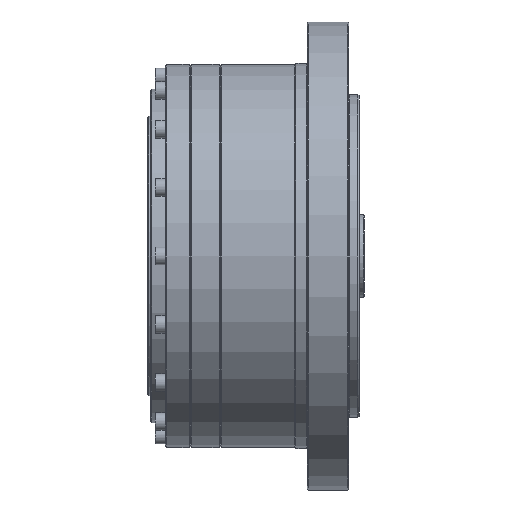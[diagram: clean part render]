
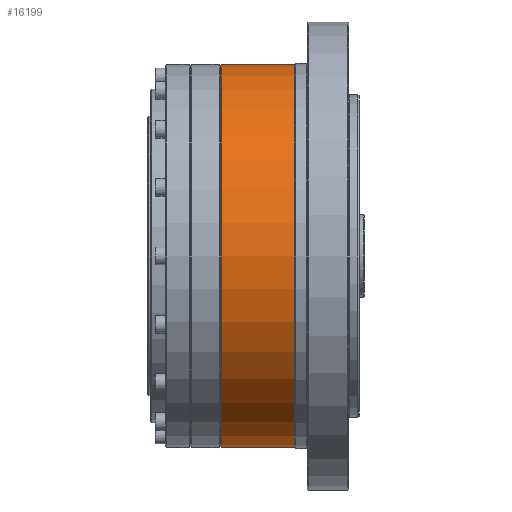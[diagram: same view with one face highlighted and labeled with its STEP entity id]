
A CAD part, front view. The second image highlights one B-rep face of the part: STEP entity #16199.
In plain terms, the highlighted cylindrical face has radius 92.5 mm (diameter 185 mm), a full revolution.
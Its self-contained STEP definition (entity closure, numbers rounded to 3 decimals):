
#1086 = FACE_OUTER_BOUND ( 'NONE', #37750, .T. ) ;
#1472 = CIRCLE ( 'NONE', #32467, 92.5 ) ;
#1569 = DIRECTION ( 'NONE',  ( 1., 0., 0. ) ) ;
#1671 = AXIS2_PLACEMENT_3D ( 'NONE', #8372, #31257, #11691 ) ;
#3892 = AXIS2_PLACEMENT_3D ( 'NONE', #40871, #1569, #37716 ) ;
#4676 = CARTESIAN_POINT ( 'NONE',  ( 6.5, 92.5, 0. ) ) ;
#6748 = CIRCLE ( 'NONE', #1671, 92.5 ) ;
#8372 = CARTESIAN_POINT ( 'NONE',  ( 42., 0., 0. ) ) ;
#11691 = DIRECTION ( 'NONE',  ( 0., 1., 0. ) ) ;
#14489 = CYLINDRICAL_SURFACE ( 'NONE', #3892, 92.5 ) ;
#16064 = DIRECTION ( 'NONE',  ( 1., 0., 0. ) ) ;
#16199 = ADVANCED_FACE ( 'NONE', ( #18631, #1086 ), #14489, .T. ) ;
#16209 = EDGE_CURVE ( 'NONE', #35489, #35489, #6748, .T. ) ;
#18631 = FACE_OUTER_BOUND ( 'NONE', #21907, .T. ) ;
#18894 = ORIENTED_EDGE ( 'NONE', *, *, #35079, .T. ) ;
#21818 = CARTESIAN_POINT ( 'NONE',  ( 42., 92.5, 0. ) ) ;
#21907 = EDGE_LOOP ( 'NONE', ( #18894 ) ) ;
#29708 = VERTEX_POINT ( 'NONE', #4676 ) ;
#31257 = DIRECTION ( 'NONE',  ( 1., 0., 0. ) ) ;
#32467 = AXIS2_PLACEMENT_3D ( 'NONE', #35659, #16064, #38952 ) ;
#35079 = EDGE_CURVE ( 'NONE', #29708, #29708, #1472, .T. ) ;
#35489 = VERTEX_POINT ( 'NONE', #21818 ) ;
#35659 = CARTESIAN_POINT ( 'NONE',  ( 6.5, 0., 0. ) ) ;
#37716 = DIRECTION ( 'NONE',  ( 0., 1., 0. ) ) ;
#37750 = EDGE_LOOP ( 'NONE', ( #38725 ) ) ;
#38725 = ORIENTED_EDGE ( 'NONE', *, *, #16209, .F. ) ;
#38952 = DIRECTION ( 'NONE',  ( 0., 1., 0. ) ) ;
#40871 = CARTESIAN_POINT ( 'NONE',  ( 17.8, 0., 0. ) ) ;
